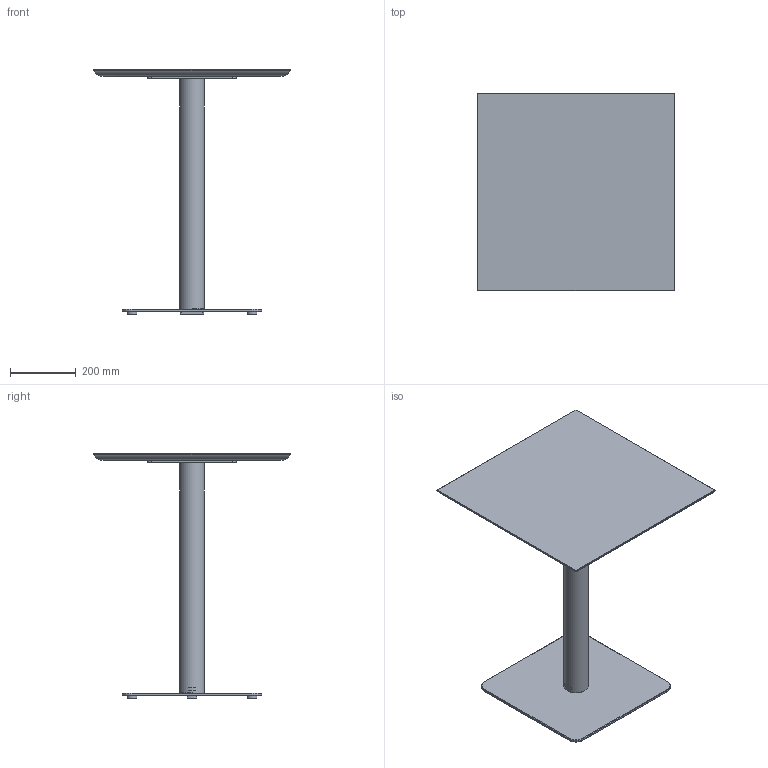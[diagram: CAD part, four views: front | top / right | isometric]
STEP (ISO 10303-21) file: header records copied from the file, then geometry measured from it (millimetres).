
FILE_DESCRIPTION( ('This file contains a STEP AP42 implementation' ,'as created by ZW3D STEP Interface translator.') ,'2;1' );
FILE_NAME( 'Henri - B_Carré - F4 - M3 - 600 x 600 x 750.stp' ,'24 912.172559', (''), ('ZWCAD Software Co.'), 'Version 1.0', 'ZW3D to STEP translator', '' );
FILE_SCHEMA(('AUTOMOTIVE_DESIGN { 1 0 10303 214 1 1 1 1 }'));
Length unit declared in the file: millimetre
Products named in the file (14): 0; PIED BISTROT PARAMETRIQUE_; COLONNE ACIER Ø76 V.02_; TUB-D076-02_; PLA-R76B-01_; CROIX ACIER 370 V.02_; CRX-X370-02_; SOCLE ACIER L 425x425 V.02_; SCL-R425-02_; PLA-R30A-01_; PLA-R30A-01; WUERTH 0276063020 Euro-screw 6.3x2 Verzinkt_; PLATEAU BISTROT PARAMETRIQUE_; insert_m6_13_
Assembly tree (22 placements, depth 3):
  0
  PIED BISTROT PARAMETRIQUE_
    COLONNE ACIER Ø76 V.02_
      TUB-D076-02_
      PLA-R76B-01_  x2
    CROIX ACIER 370 V.02_
      CRX-X370-02_
    SOCLE ACIER L 425x425 V.02_
      SCL-R425-02_
      PLA-R30A-01_
      PLA-R30A-01  x3
    WUERTH 0276063020 Euro-screw 6.3x2 Verzinkt_
    PLATEAU BISTROT PARAMETRIQUE_
      insert_m6_13_  x8
Bounding box: 600 x 600 x 744 mm (x, y, z)
Volume: 9212783.9 mm3; surface area: 1631892.4 mm2
Topology: 19 solids, 19 shells, 533 faces, 1306 edges, 818 vertices
Faces by surface type: plane 258, bspline 125, cylinder 102, cone 47, torus 1
Full cylindrical faces by diameter (mm): 4.88 x1, 6 x8, 6.3 x1, 8 x45, 12 x2, 14 x2, 30 x4, 72 x1, 76 x1
Entity records: 12234 total; most frequent: CARTESIAN_POINT 3472, ORIENTED_EDGE 1608, DIRECTION 1463, EDGE_CURVE 804, VERTEX_POINT 514, VECTOR 505, LINE 505, AXIS2_PLACEMENT_3D 479
